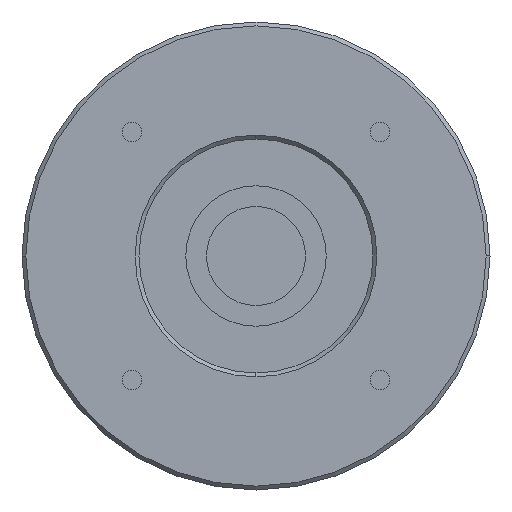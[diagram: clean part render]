
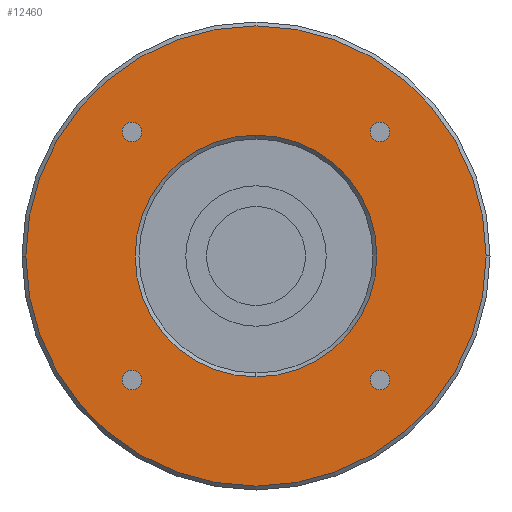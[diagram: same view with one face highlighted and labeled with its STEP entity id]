
A CAD part, left-side view. The second image highlights one B-rep face of the part: STEP entity #12460.
In plain terms, the highlighted planar face has unit normal (-1, 0, 0) as drawn and (0, 0, -1) by its records, which use the part's own axes.
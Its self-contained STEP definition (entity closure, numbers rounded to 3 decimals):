
#8750=CARTESIAN_POINT('',(0.,15.5,-35.5));
#8760=VERTEX_POINT('',#8750);
#8790=CARTESIAN_POINT('',(0.,0.,
-35.5));
#8800=DIRECTION('',(0.,0.,-1.));
#8810=DIRECTION('',(-1.,0.,0.));
#8820=AXIS2_PLACEMENT_3D('',#8790,#8800,#8810);
#8830=CIRCLE('',#8820,15.5);
#8840=CARTESIAN_POINT('',(-15.5,0.,-35.5));
#8850=VERTEX_POINT('',#8840);
#8860=EDGE_CURVE('',#8850,#8760,#8830,.T.);
#8880=CARTESIAN_POINT('',(0.,-15.5,-35.5));
#8890=VERTEX_POINT('',#8880);
#8900=EDGE_CURVE('',#8890,#8850,#8830,.T.);
#11310=CARTESIAN_POINT('',(17.16,-15.91,-35.5));
#11320=VERTEX_POINT('',#11310);
#11350=CARTESIAN_POINT('',(15.91,-15.91,-35.5));
#11360=DIRECTION('',(0.,0.,-1.));
#11370=DIRECTION('',(0.,-1.,0.));
#11380=AXIS2_PLACEMENT_3D('',#11350,#11360,#11370);
#11390=CIRCLE('',#11380,1.25);
#11400=CARTESIAN_POINT('',(14.66,-15.91,-35.5));
#11410=VERTEX_POINT('',#11400);
#11420=EDGE_CURVE('',#11410,#11320,#11390,.T.);
#11540=CARTESIAN_POINT('',(0.,0.,
-35.5));
#11550=DIRECTION('',(0.,0.,-1.));
#11560=DIRECTION('',(-1.,0.,0.));
#11570=AXIS2_PLACEMENT_3D('',#11540,#11550,#11560);
#11580=PLANE('',#11570);
#11590=CARTESIAN_POINT('',(-15.91,15.91,-35.5));
#11600=DIRECTION('',(0.,0.,-1.));
#11610=DIRECTION('',(0.,-1.,0.));
#11620=AXIS2_PLACEMENT_3D('',#11590,#11600,#11610);
#11630=CIRCLE('',#11620,1.25);
#11640=CARTESIAN_POINT('',(-15.91,14.66,-35.5));
#11650=VERTEX_POINT('',#11640);
#11660=CARTESIAN_POINT('',(-17.16,15.91,-35.5));
#11670=VERTEX_POINT('',#11660);
#11680=EDGE_CURVE('',#11650,#11670,#11630,.T.);
#11690=ORIENTED_EDGE('',*,*,#11680,.F.);
#11700=CARTESIAN_POINT('',(-14.66,15.91,-35.5));
#11710=VERTEX_POINT('',#11700);
#11720=EDGE_CURVE('',#11670,#11710,#11630,.T.);
#11730=ORIENTED_EDGE('',*,*,#11720,.F.);
#11740=EDGE_CURVE('',#11710,#11650,#11630,.T.);
#11750=ORIENTED_EDGE('',*,*,#11740,.F.);
#11760=EDGE_LOOP('',(#11750,#11730,#11690));
#11770=FACE_BOUND('',#11760,.T.);
#11780=CARTESIAN_POINT('',(15.91,15.91,-35.5));
#11790=DIRECTION('',(0.,0.,-1.));
#11800=DIRECTION('',(0.,-1.,0.));
#11810=AXIS2_PLACEMENT_3D('',#11780,#11790,#11800);
#11820=CIRCLE('',#11810,1.25);
#11830=CARTESIAN_POINT('',(15.91,14.66,-35.5));
#11840=VERTEX_POINT('',#11830);
#11850=CARTESIAN_POINT('',(14.66,15.91,-35.5));
#11860=VERTEX_POINT('',#11850);
#11870=EDGE_CURVE('',#11840,#11860,#11820,.T.);
#11880=ORIENTED_EDGE('',*,*,#11870,.F.);
#11890=CARTESIAN_POINT('',(17.16,15.91,-35.5));
#11900=VERTEX_POINT('',#11890);
#11910=EDGE_CURVE('',#11860,#11900,#11820,.T.);
#11920=ORIENTED_EDGE('',*,*,#11910,.F.);
#11930=EDGE_CURVE('',#11900,#11840,#11820,.T.);
#11940=ORIENTED_EDGE('',*,*,#11930,.F.);
#11950=EDGE_LOOP('',(#11940,#11920,#11880));
#11960=FACE_BOUND('',#11950,.T.);
#11970=CARTESIAN_POINT('',(15.91,-17.16,-35.5));
#11980=VERTEX_POINT('',#11970);
#11990=EDGE_CURVE('',#11980,#11410,#11390,.T.);
#12000=ORIENTED_EDGE('',*,*,#11990,.F.);
#12010=ORIENTED_EDGE('',*,*,#11420,.F.);
#12020=EDGE_CURVE('',#11320,#11980,#11390,.T.);
#12030=ORIENTED_EDGE('',*,*,#12020,.F.);
#12040=EDGE_LOOP('',(#12030,#12010,#12000));
#12050=FACE_BOUND('',#12040,.T.);
#12060=CARTESIAN_POINT('',(-15.91,-15.91,-35.5));
#12070=DIRECTION('',(0.,0.,-1.));
#12080=DIRECTION('',(0.,-1.,0.));
#12090=AXIS2_PLACEMENT_3D('',#12060,#12070,#12080);
#12100=CIRCLE('',#12090,1.25);
#12110=CARTESIAN_POINT('',(-15.91,-17.16,-35.5));
#12120=VERTEX_POINT('',#12110);
#12130=CARTESIAN_POINT('',(-17.16,-15.91,-35.5));
#12140=VERTEX_POINT('',#12130);
#12150=EDGE_CURVE('',#12120,#12140,#12100,.T.);
#12160=ORIENTED_EDGE('',*,*,#12150,.F.);
#12170=CARTESIAN_POINT('',(-14.66,-15.91,-35.5));
#12180=VERTEX_POINT('',#12170);
#12190=EDGE_CURVE('',#12140,#12180,#12100,.T.);
#12200=ORIENTED_EDGE('',*,*,#12190,.F.);
#12210=EDGE_CURVE('',#12180,#12120,#12100,.T.);
#12220=ORIENTED_EDGE('',*,*,#12210,.F.);
#12230=EDGE_LOOP('',(#12220,#12200,#12160));
#12240=FACE_BOUND('',#12230,.T.);
#12250=CARTESIAN_POINT('',(0.,0.,
-35.5));
#12260=DIRECTION('',(0.,0.,-1.));
#12270=DIRECTION('',(-1.,0.,0.));
#12280=AXIS2_PLACEMENT_3D('',#12250,#12260,#12270);
#12290=CIRCLE('',#12280,29.5);
#12300=CARTESIAN_POINT('',(-29.5,0.,-35.5));
#12310=VERTEX_POINT('',#12300);
#12320=CARTESIAN_POINT('',(29.5,0.,-35.5));
#12330=VERTEX_POINT('',#12320);
#12340=EDGE_CURVE('',#12310,#12330,#12290,.T.);
#12350=ORIENTED_EDGE('',*,*,#12340,.T.);
#12360=EDGE_CURVE('',#12330,#12310,#12290,.T.);
#12370=ORIENTED_EDGE('',*,*,#12360,.T.);
#12380=EDGE_LOOP('',(#12370,#12350));
#12390=FACE_OUTER_BOUND('',#12380,.T.);
#12400=ORIENTED_EDGE('',*,*,#8860,.F.);
#12410=EDGE_CURVE('',#8760,#8890,#8830,.T.);
#12420=ORIENTED_EDGE('',*,*,#12410,.F.);
#12430=ORIENTED_EDGE('',*,*,#8900,.F.);
#12440=EDGE_LOOP('',(#12430,#12420,#12400));
#12450=FACE_BOUND('',#12440,.T.);
#12460=ADVANCED_FACE('',(#11770,#11960,#12050,#12240,#12390,#12450),
#11580,.T.);
